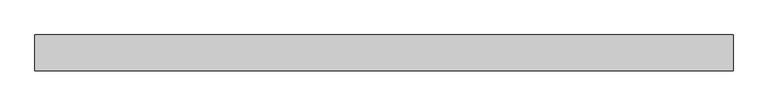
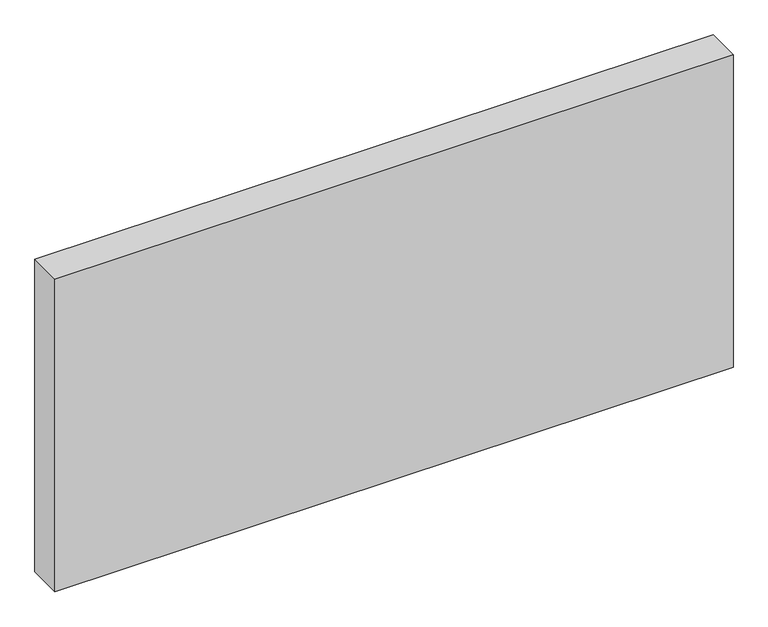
"""IFC4 building model written with IfcOpenShell, lengths in millimetres: plate geometry, Системная панель : Алюкобонд серый."""

from ifc_helpers import new_model, si_unit, origin, origin_with_axes, place, context, project, spatial, polyline, outline, extrude, source, transform, mapped, element, save


def plate_c3fd3917(model_context):
    return source(origin(), model_context, "Body", "SweptSolid", [
        extrude(outline(polyline([(585.0, -10.5), (-585.0, -10.5), (-585.0, 49.5), (585.0, 49.5), (585.0, -10.5)])), origin_with_axes(), (0.0, 0.0, 1.0), 570.0),
    ])


if __name__ == "__main__":
    model = new_model("IFC4")
    model_context = context("Model", 3, world=origin())
    ifc_project = project(units=[si_unit("LENGTHUNIT", "METRE", prefix="MILLI")], contexts=[model_context])
    site = spatial("IfcSite", under=ifc_project)
    building = spatial("IfcBuilding", under=site)
    placement = place(None, origin())
    plate_shape = plate_c3fd3917(model_context)
    element("IfcPlate", 1, ObjectType="Системная панель : Алюкобонд серый", at=placement, inside=building, context=model_context, shape_type="MappedRepresentation", body=[
        mapped(plate_shape, transform((0.0, 0.0, 0.0), x_axis=(1.0, 0.0, 0.0), y_axis=(0.0, 1.0, 0.0), z_axis=(0.0, 0.0, 1.0))),
    ])
    save(model, "model.ifc")
